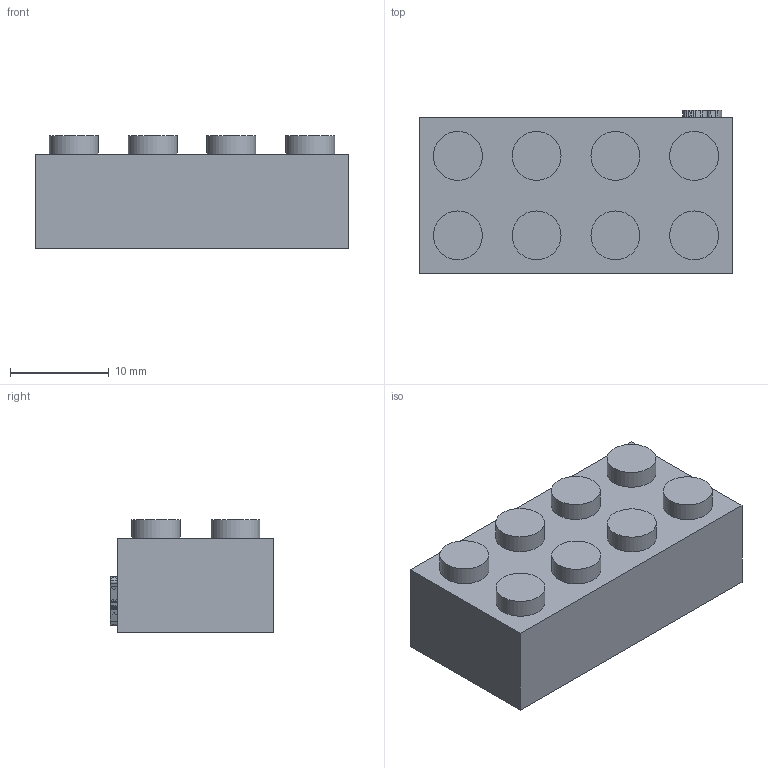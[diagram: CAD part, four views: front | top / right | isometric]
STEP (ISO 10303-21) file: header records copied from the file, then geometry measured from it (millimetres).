
FILE_DESCRIPTION(('Open CASCADE Model'),'2;1');
FILE_NAME('Open CASCADE Shape Model','2026-10-26T18:28:53',('Author'),( 'Open CASCADE'),'Open CASCADE STEP processor 7.9','Open CASCADE 7.9' ,'Unknown');
FILE_SCHEMA(('AUTOMOTIVE_DESIGN { 1 0 10303 214 1 1 1 1 }'));
Length unit declared in the file: millimetre
Products named in the file (1): Open CASCADE STEP translator 7.9 1
Bounding box: 31.75 x 16.56 x 11.35 mm (x, y, z)
Volume: 2964.6 mm3; surface area: 3212.4 mm2
Topology: 1 solids, 9 shells, 477 faces, 1226 edges, 781 vertices
Faces by surface type: plane 454, cylinder 18, bspline 5
Full cylindrical faces by diameter (mm): 4.953 x8, 6.477 x3
Entity records: 31916 total; most frequent: CARTESIAN_POINT 7464, DIRECTION 4374, LINE 3343, VECTOR 3343, ORIENTED_EDGE 2452, PCURVE 2452, DEFINITIONAL_REPRESENTATION 2452, EDGE_CURVE 1226
